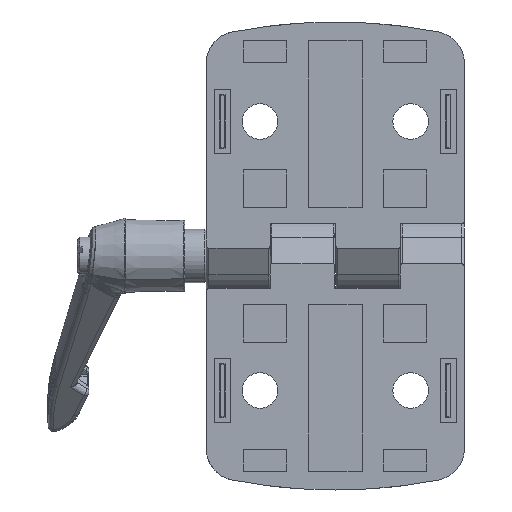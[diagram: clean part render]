
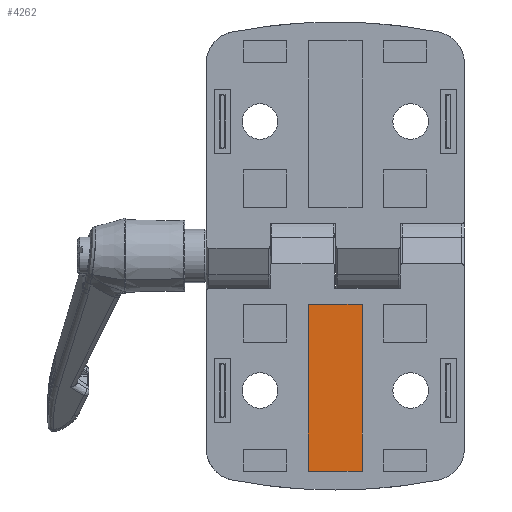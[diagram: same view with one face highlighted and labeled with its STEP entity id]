
A CAD part, front view. The second image highlights one B-rep face of the part: STEP entity #4262.
In plain terms, the highlighted planar face has unit normal (0, -1, 0).
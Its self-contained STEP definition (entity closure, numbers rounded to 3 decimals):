
#64 = PLANE ( 'NONE',  #13821 ) ;
#298 = VECTOR ( 'NONE', #5804, 1000. ) ;
#1810 = FACE_OUTER_BOUND ( 'NONE', #7082, .T. ) ;
#2966 = DIRECTION ( 'NONE',  ( 0., -1., 0. ) ) ;
#3137 = VECTOR ( 'NONE', #7420, 1000. ) ;
#4143 = LINE ( 'NONE', #14530, #298 ) ;
#4262 = ADVANCED_FACE ( 'NONE', ( #1810 ), #64, .T. ) ;
#5690 = CARTESIAN_POINT ( 'NONE',  ( 5., 1., -9. ) ) ;
#5804 = DIRECTION ( 'NONE',  ( 0., 0., 1. ) ) ;
#5859 = VERTEX_POINT ( 'NONE', #5690 ) ;
#6344 = ORIENTED_EDGE ( 'NONE', *, *, #7614, .T. ) ;
#6436 = CARTESIAN_POINT ( 'NONE',  ( -5., 1., -40. ) ) ;
#6470 = CARTESIAN_POINT ( 'NONE',  ( -5., 1., -9. ) ) ;
#6772 = VECTOR ( 'NONE', #12349, 1000. ) ;
#7082 = EDGE_LOOP ( 'NONE', ( #6344, #18042, #17213, #7529 ) ) ;
#7420 = DIRECTION ( 'NONE',  ( -1., 0., 0. ) ) ;
#7529 = ORIENTED_EDGE ( 'NONE', *, *, #10315, .T. ) ;
#7614 = EDGE_CURVE ( 'NONE', #10329, #16790, #18406, .T. ) ;
#7936 = LINE ( 'NONE', #17558, #3137 ) ;
#8283 = EDGE_CURVE ( 'NONE', #5859, #9464, #7936, .T. ) ;
#9424 = DIRECTION ( 'NONE',  ( 0., 0., -1. ) ) ;
#9464 = VERTEX_POINT ( 'NONE', #6470 ) ;
#10315 = EDGE_CURVE ( 'NONE', #9464, #10329, #17224, .T. ) ;
#10329 = VERTEX_POINT ( 'NONE', #10898 ) ;
#10898 = CARTESIAN_POINT ( 'NONE',  ( -5., 1., -40. ) ) ;
#11694 = CARTESIAN_POINT ( 'NONE',  ( -5., 1., -40. ) ) ;
#12349 = DIRECTION ( 'NONE',  ( 1., 0., 0. ) ) ;
#13107 = CARTESIAN_POINT ( 'NONE',  ( 5., 1., -40. ) ) ;
#13139 = DIRECTION ( 'NONE',  ( 0., 0., -1. ) ) ;
#13313 = VECTOR ( 'NONE', #9424, 1000. ) ;
#13726 = CARTESIAN_POINT ( 'NONE',  ( -5., 1., -40. ) ) ;
#13821 = AXIS2_PLACEMENT_3D ( 'NONE', #11694, #2966, #13139 ) ;
#13899 = EDGE_CURVE ( 'NONE', #16790, #5859, #4143, .T. ) ;
#14530 = CARTESIAN_POINT ( 'NONE',  ( 5., 1., -40. ) ) ;
#16790 = VERTEX_POINT ( 'NONE', #13107 ) ;
#17213 = ORIENTED_EDGE ( 'NONE', *, *, #8283, .T. ) ;
#17224 = LINE ( 'NONE', #6436, #13313 ) ;
#17558 = CARTESIAN_POINT ( 'NONE',  ( -5., 1., -9. ) ) ;
#18042 = ORIENTED_EDGE ( 'NONE', *, *, #13899, .T. ) ;
#18406 = LINE ( 'NONE', #13726, #6772 ) ;
